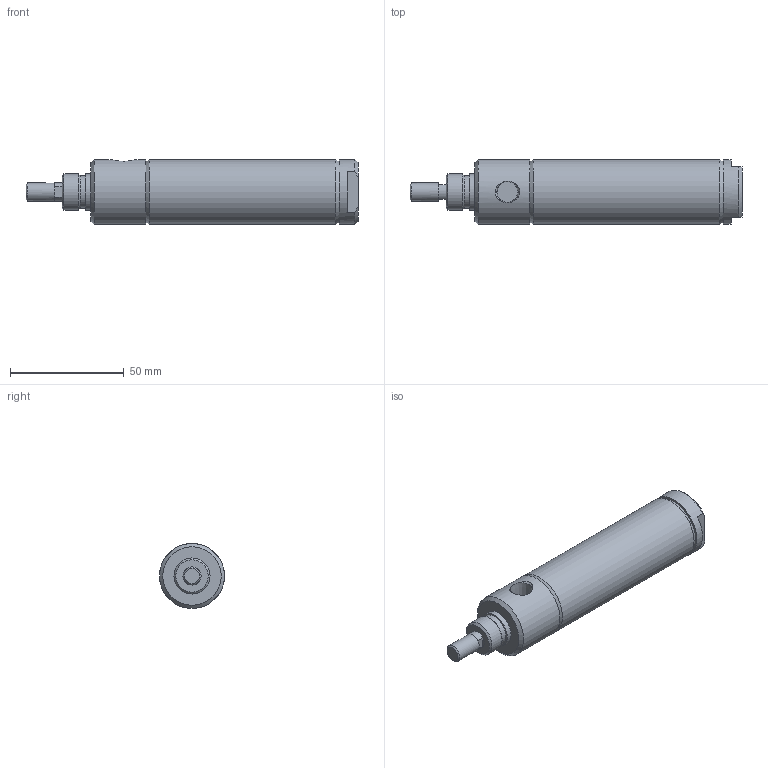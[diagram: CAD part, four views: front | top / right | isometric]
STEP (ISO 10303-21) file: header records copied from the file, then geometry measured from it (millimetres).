
FILE_DESCRIPTION( ( 'STEP AP214' ), '1' );
FILE_NAME( 'p:/temp/worker_475/temp/exporttempdir_292_111_Nr6eD/format_0/1062D01-02A.stp', '2020-05-07T14:48:07', ( 'License CC BY-ND 4.0' ), ( 'CADENAS' ), ' ', 'PARTsolutions', ' ' );
FILE_SCHEMA( ( 'AUTOMOTIVE_DESIGN { 1 0 10303 214 1 1 1 1 }' ) );
Length unit declared in the file: inch
Products named in the file (3): 1062D01-02A; _1062D01-02A-001062D01-02A-0000A00A0b; _1062D01-02A-001062D01-02A-0000A00A0r
Assembly tree (2 placements, depth 2):
  1062D01-02A
    _1062D01-02A-001062D01-02A-0000A00A0b
    _1062D01-02A-001062D01-02A-0000A00A0r
Bounding box: 146.05 x 28.57 x 28.57 mm (x, y, z)
Volume: 49419.3 mm3; surface area: 28322.5 mm2
Topology: 2 solids, 2 shells, 51 faces, 99 edges, 62 vertices
Faces by surface type: plane 26, cone 13, cylinder 12
Full cylindrical faces by diameter (mm): 7.938 x1, 7.95 x3, 14.196 x1, 15.85 x1, 15.875 x1, 26.987 x2, 28.397 x1, 28.575 x2
Entity records: 1700 total; most frequent: CARTESIAN_POINT 278, DIRECTION 220, ORIENTED_EDGE 148, AXIS2_PLACEMENT_3D 100, EDGE_LOOP 82, EDGE_CURVE 74, FACE_OUTER_BOUND 63, VERTEX_POINT 58
